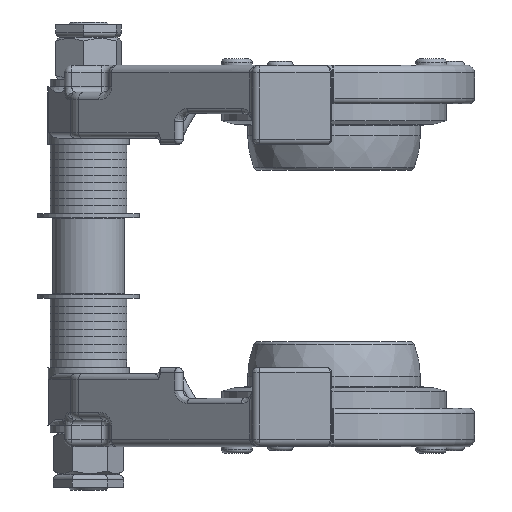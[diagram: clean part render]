
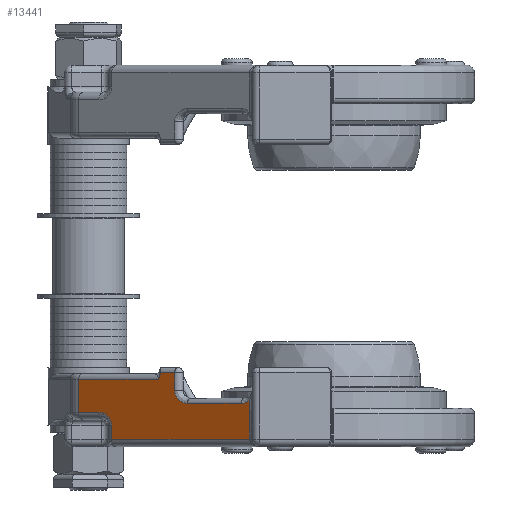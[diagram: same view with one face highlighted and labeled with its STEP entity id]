
A CAD part, left-side view. The second image highlights one B-rep face of the part: STEP entity #13441.
In plain terms, the highlighted planar face has unit normal (-0.766, 0.643, 0) as drawn and (0.766, -0.643, 0) by its records, which use the part's own axes.
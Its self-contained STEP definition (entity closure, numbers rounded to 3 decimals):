
#10139=CARTESIAN_POINT('',(179.387,-30.286,22.));
#10140=VERTEX_POINT('',#10139);
#10158=CARTESIAN_POINT('',(179.387,-30.286,29.0));
#10159=VERTEX_POINT('',#10158);
#10167=CARTESIAN_POINT('',(179.387,-30.286,29.0));
#10168=DIRECTION('',(0.0,0.0,-1.0));
#10169=VECTOR('',#10168,7.);
#10170=LINE('',#10167,#10169);
#10171=EDGE_CURVE('',#10159,#10140,#10170,.T.);
#10277=CARTESIAN_POINT('',(183.583,-25.286,17.));
#10278=VERTEX_POINT('',#10277);
#10296=CARTESIAN_POINT('',(183.583,-25.286,22.));
#10297=DIRECTION('',(0.766,-0.643,0.));
#10298=DIRECTION('',(-0.643,-0.766,0.));
#10299=AXIS2_PLACEMENT_3D('',#10296,#10297,#10298);
#10300=ELLIPSE('',#10299,6.527,5.);
#10301=EDGE_CURVE('',#10140,#10278,#10300,.T.);
#10311=CARTESIAN_POINT('',(201.204,-4.286,17.));
#10312=VERTEX_POINT('',#10311);
#10329=CARTESIAN_POINT('',(183.583,-25.286,17.));
#10330=DIRECTION('',(0.643,0.766,0.));
#10331=VECTOR('',#10330,27.414);
#10332=LINE('',#10329,#10331);
#10333=EDGE_CURVE('',#10278,#10312,#10332,.T.);
#10389=CARTESIAN_POINT('',(203.901,-1.072,18.17));
#10390=VERTEX_POINT('',#10389);
#10408=CARTESIAN_POINT('',(201.204,-4.286,22.));
#10409=DIRECTION('',(0.766,-0.643,0.));
#10410=DIRECTION('',(0.643,0.766,0.));
#10411=AXIS2_PLACEMENT_3D('',#10408,#10409,#10410);
#10412=ELLIPSE('',#10411,6.527,5.);
#10413=EDGE_CURVE('',#10312,#10390,#10412,.T.);
#11987=CARTESIAN_POINT('',(173.993,-36.714,26.5));
#11988=VERTEX_POINT('',#11987);
#11996=CARTESIAN_POINT('',(174.592,-36.,28.781));
#11997=VERTEX_POINT('',#11996);
#11998=CARTESIAN_POINT('',(173.993,-36.714,26.5));
#11999=CARTESIAN_POINT('',(173.994,-36.713,26.502));
#12000=CARTESIAN_POINT('',(173.996,-36.711,26.504));
#12001=CARTESIAN_POINT('',(174.097,-36.591,26.662));
#12002=CARTESIAN_POINT('',(174.184,-36.486,26.83));
#12003=CARTESIAN_POINT('',(174.339,-36.301,27.201));
#12004=CARTESIAN_POINT('',(174.404,-36.224,27.4));
#12005=CARTESIAN_POINT('',(174.547,-36.054,27.982));
#12006=CARTESIAN_POINT('',(174.592,-36.,28.381));
#12007=CARTESIAN_POINT('',(174.592,-36.,28.781));
#12008=B_SPLINE_CURVE_WITH_KNOTS('',3,(#11998,#11999,#12000,#12001,#12002,#12003,#12004,#12005,#12006,#12007),.UNSPECIFIED.,.F.,.U.,(4,2,2,2,4),(-0.001,0.0,0.066,0.133,0.254),.UNSPECIFIED.);
#12009=EDGE_CURVE('',#11988,#11997,#12008,.T.);
#12051=CARTESIAN_POINT('',(174.592,-36.,29.0));
#12052=VERTEX_POINT('',#12051);
#12053=CARTESIAN_POINT('',(174.592,-36.,28.781));
#12054=DIRECTION('',(0.0,0.0,1.0));
#12055=VECTOR('',#12054,0.219);
#12056=LINE('',#12053,#12055);
#12057=EDGE_CURVE('',#11997,#12052,#12056,.T.);
#13363=CARTESIAN_POINT('',(174.592,-36.,29.0));
#13364=DIRECTION('',(0.643,0.766,0.0));
#13365=VECTOR('',#13364,7.46);
#13366=LINE('',#13363,#13365);
#13367=EDGE_CURVE('',#12052,#10159,#13366,.T.);
#13372=CARTESIAN_POINT('',(147.839,-67.883,6.));
#13373=DIRECTION('',(0.766,-0.643,0.));
#13374=DIRECTION('',(0.0,0.0,-1.0));
#13375=AXIS2_PLACEMENT_3D('',#13372,#13373,#13374);
#13376=PLANE('',#13375);
#13377=ORIENTED_EDGE('',*,*,#10171,.F.);
#13378=ORIENTED_EDGE('',*,*,#13367,.F.);
#13379=ORIENTED_EDGE('',*,*,#12057,.F.);
#13380=ORIENTED_EDGE('',*,*,#12009,.F.);
#13381=CARTESIAN_POINT('',(147.839,-67.883,26.5));
#13382=VERTEX_POINT('',#13381);
#13383=CARTESIAN_POINT('',(147.839,-67.883,26.5));
#13384=DIRECTION('',(0.643,0.766,0.0));
#13385=VECTOR('',#13384,40.688);
#13386=LINE('',#13383,#13385);
#13387=EDGE_CURVE('',#13382,#11988,#13386,.T.);
#13388=ORIENTED_EDGE('',*,*,#13387,.F.);
#13389=CARTESIAN_POINT('',(147.839,-67.883,13.5));
#13390=VERTEX_POINT('',#13389);
#13391=CARTESIAN_POINT('',(147.839,-67.883,13.5));
#13392=DIRECTION('',(0.0,0.0,1.0));
#13393=VECTOR('',#13392,13.);
#13394=LINE('',#13391,#13393);
#13395=EDGE_CURVE('',#13390,#13382,#13394,.T.);
#13396=ORIENTED_EDGE('',*,*,#13395,.F.);
#13397=CARTESIAN_POINT('',(154.514,-59.928,13.5));
#13398=VERTEX_POINT('',#13397);
#13399=CARTESIAN_POINT('',(154.514,-59.928,13.5));
#13400=DIRECTION('',(-0.643,-0.766,0.0));
#13401=VECTOR('',#13400,10.384);
#13402=LINE('',#13399,#13401);
#13403=EDGE_CURVE('',#13398,#13390,#13402,.T.);
#13404=ORIENTED_EDGE('',*,*,#13403,.F.);
#13405=CARTESIAN_POINT('',(158.71,-54.928,8.5));
#13406=VERTEX_POINT('',#13405);
#13407=CARTESIAN_POINT('',(154.514,-59.928,8.5));
#13408=DIRECTION('',(0.766,-0.643,0.));
#13409=DIRECTION('',(0.643,0.766,0.0));
#13410=AXIS2_PLACEMENT_3D('',#13407,#13408,#13409);
#13411=ELLIPSE('',#13410,6.527,5.);
#13412=EDGE_CURVE('',#13406,#13398,#13411,.T.);
#13413=ORIENTED_EDGE('',*,*,#13412,.F.);
#13414=CARTESIAN_POINT('',(158.71,-54.928,3.));
#13415=VERTEX_POINT('',#13414);
#13416=CARTESIAN_POINT('',(158.71,-54.928,3.));
#13417=DIRECTION('',(0.0,0.0,1.0));
#13418=VECTOR('',#13417,5.5);
#13419=LINE('',#13416,#13418);
#13420=EDGE_CURVE('',#13415,#13406,#13419,.T.);
#13421=ORIENTED_EDGE('',*,*,#13420,.F.);
#13422=CARTESIAN_POINT('',(203.901,-1.072,3.));
#13423=VERTEX_POINT('',#13422);
#13424=CARTESIAN_POINT('',(203.901,-1.072,3.));
#13425=DIRECTION('',(-0.643,-0.766,0.0));
#13426=VECTOR('',#13425,70.305);
#13427=LINE('',#13424,#13426);
#13428=EDGE_CURVE('',#13423,#13415,#13427,.T.);
#13429=ORIENTED_EDGE('',*,*,#13428,.F.);
#13430=CARTESIAN_POINT('',(203.901,-1.072,3.));
#13431=DIRECTION('',(0.0,0.0,1.0));
#13432=VECTOR('',#13431,15.17);
#13433=LINE('',#13430,#13432);
#13434=EDGE_CURVE('',#10390,#13423,#13433,.F.);
#13435=ORIENTED_EDGE('',*,*,#13434,.F.);
#13436=ORIENTED_EDGE('',*,*,#10413,.F.);
#13437=ORIENTED_EDGE('',*,*,#10333,.F.);
#13438=ORIENTED_EDGE('',*,*,#10301,.F.);
#13439=EDGE_LOOP('',(#13377,#13378,#13379,#13380,#13388,#13396,#13404,#13413,#13421,#13429,#13435,#13436,#13437,#13438));
#13440=FACE_OUTER_BOUND('',#13439,.T.);
#13441=ADVANCED_FACE('',(#13440),#13376,.T.);
